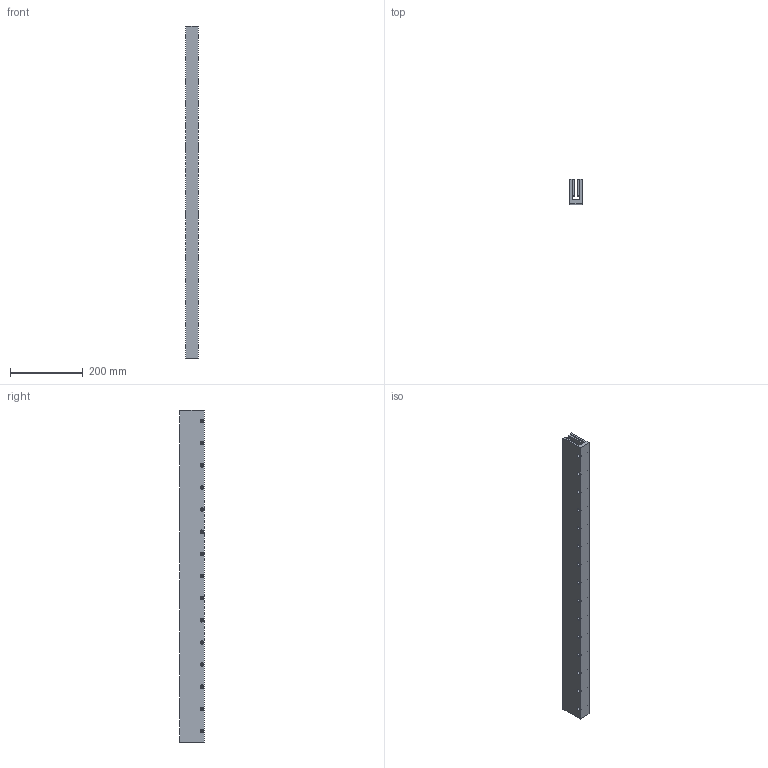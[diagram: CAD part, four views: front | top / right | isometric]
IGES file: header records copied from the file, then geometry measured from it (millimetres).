
Global section: file name: No Iges File Name specified; native system: Autodesk Inventor 2012; preprocessor: AutoDesk Inventor Iges Exporter R2012; author: je17857; date: 20120511.155658; units: inch
Bounding box: 34.29 x 67.31 x 914.15 mm (x, y, z)
Volume: 1359393.1 mm3; surface area: 346837.7 mm2
Topology: 1 solids, 1 shells, 385 faces, 879 edges, 586 vertices
Faces by surface type: plane 340, revolution 45
